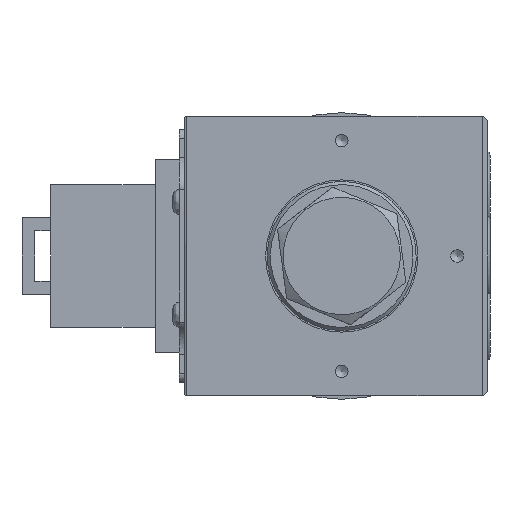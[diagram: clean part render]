
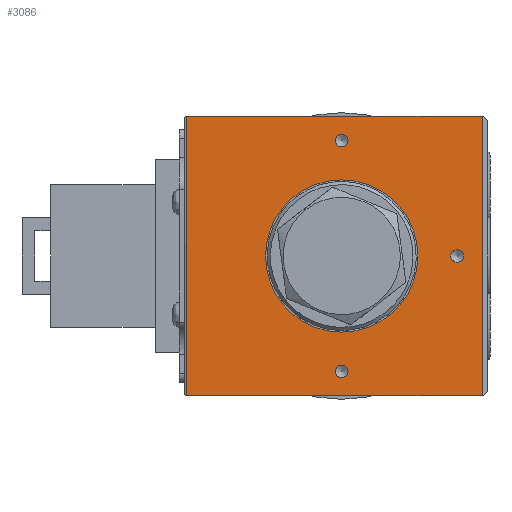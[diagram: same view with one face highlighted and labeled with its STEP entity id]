
A CAD part, left-side view. The second image highlights one B-rep face of the part: STEP entity #3086.
In plain terms, the highlighted planar face has unit normal (-1, 0, 0).
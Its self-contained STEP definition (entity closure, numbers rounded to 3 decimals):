
#1706=FACE_BOUND('',#5844,.T.);
#1707=FACE_BOUND('',#5845,.T.);
#1708=FACE_BOUND('',#5846,.T.);
#1709=FACE_BOUND('',#5847,.T.);
#1710=FACE_BOUND('',#5848,.T.);
#2121=CIRCLE('',#20103,12.);
#2122=CIRCLE('',#20104,1.);
#2123=CIRCLE('',#20105,1.);
#2124=CIRCLE('',#20106,1.);
#3086=ADVANCED_FACE('',(#1706,#1707,#1708,#1709,#1710),#3938,.T.);
#3938=PLANE('',#20107);
#5844=EDGE_LOOP('',(#10251));
#5845=EDGE_LOOP('',(#10252,#10253,#10254,#10255));
#5846=EDGE_LOOP('',(#10256));
#5847=EDGE_LOOP('',(#10257));
#5848=EDGE_LOOP('',(#10258));
#10251=ORIENTED_EDGE('',*,*,#14916,.T.);
#10252=ORIENTED_EDGE('',*,*,#14869,.F.);
#10253=ORIENTED_EDGE('',*,*,#14917,.T.);
#10254=ORIENTED_EDGE('',*,*,#14904,.T.);
#10255=ORIENTED_EDGE('',*,*,#14918,.T.);
#10256=ORIENTED_EDGE('',*,*,#14919,.T.);
#10257=ORIENTED_EDGE('',*,*,#14920,.T.);
#10258=ORIENTED_EDGE('',*,*,#14921,.T.);
#12504=VERTEX_POINT('',#36824);
#12505=VERTEX_POINT('',#36826);
#12539=VERTEX_POINT('',#36902);
#12540=VERTEX_POINT('',#36903);
#12549=VERTEX_POINT('',#36926);
#12550=VERTEX_POINT('',#36930);
#12551=VERTEX_POINT('',#36932);
#12552=VERTEX_POINT('',#36934);
#14869=EDGE_CURVE('',#12504,#12505,#16981,.T.);
#14904=EDGE_CURVE('',#12539,#12540,#16993,.T.);
#14916=EDGE_CURVE('',#12549,#12549,#2121,.T.);
#14917=EDGE_CURVE('',#12504,#12539,#17001,.T.);
#14918=EDGE_CURVE('',#12540,#12505,#17002,.T.);
#14919=EDGE_CURVE('',#12550,#12550,#2122,.T.);
#14920=EDGE_CURVE('',#12551,#12551,#2123,.T.);
#14921=EDGE_CURVE('',#12552,#12552,#2124,.T.);
#16981=LINE('',#36825,#18818);
#16993=LINE('',#36901,#18830);
#17001=LINE('',#36927,#18838);
#17002=LINE('',#36928,#18839);
#18818=VECTOR('',#24329,1.);
#18830=VECTOR('',#24401,1.);
#18838=VECTOR('',#24423,1.);
#18839=VECTOR('',#24424,1.);
#20103=AXIS2_PLACEMENT_3D('',#36925,#24421,#24422);
#20104=AXIS2_PLACEMENT_3D('',#36929,#24425,#24426);
#20105=AXIS2_PLACEMENT_3D('',#36931,#24427,#24428);
#20106=AXIS2_PLACEMENT_3D('',#36933,#24429,#24430);
#20107=AXIS2_PLACEMENT_3D('',#36935,#24431,#24432);
#24329=DIRECTION('',(0.,-1.,0.));
#24401=DIRECTION('',(0.,-1.,0.));
#24421=DIRECTION('',(1.,0.,0.));
#24422=DIRECTION('',(0.,0.,1.));
#24423=DIRECTION('',(0.,0.,-1.));
#24424=DIRECTION('',(0.,0.,1.));
#24425=DIRECTION('',(1.,0.,0.));
#24426=DIRECTION('',(0.,0.,1.));
#24427=DIRECTION('',(1.,0.,0.));
#24428=DIRECTION('',(0.,0.,1.));
#24429=DIRECTION('',(1.,0.,0.));
#24430=DIRECTION('',(0.,0.,1.));
#24431=DIRECTION('',(-1.,0.,0.));
#24432=DIRECTION('',(0.,0.,-1.));
#36824=CARTESIAN_POINT('',(106.076,196.261,22.));
#36825=CARTESIAN_POINT('',(106.076,172.261,22.));
#36826=CARTESIAN_POINT('',(106.076,149.611,22.));
#36901=CARTESIAN_POINT('',(106.076,172.261,-22.));
#36902=CARTESIAN_POINT('',(106.076,196.261,-22.));
#36903=CARTESIAN_POINT('',(106.076,149.611,-22.));
#36925=CARTESIAN_POINT('',(106.076,171.761,0.));
#36926=CARTESIAN_POINT('',(106.076,171.761,12.));
#36927=CARTESIAN_POINT('',(106.076,196.261,-22.));
#36928=CARTESIAN_POINT('',(106.076,149.611,3.45));
#36929=CARTESIAN_POINT('',(106.076,153.561,0.));
#36930=CARTESIAN_POINT('',(106.076,153.561,1.));
#36931=CARTESIAN_POINT('',(106.076,171.761,18.2));
#36932=CARTESIAN_POINT('',(106.076,171.761,19.2));
#36933=CARTESIAN_POINT('',(106.076,171.761,-18.2));
#36934=CARTESIAN_POINT('',(106.076,171.761,-17.2));
#36935=CARTESIAN_POINT('',(106.076,167.561,3.45));
